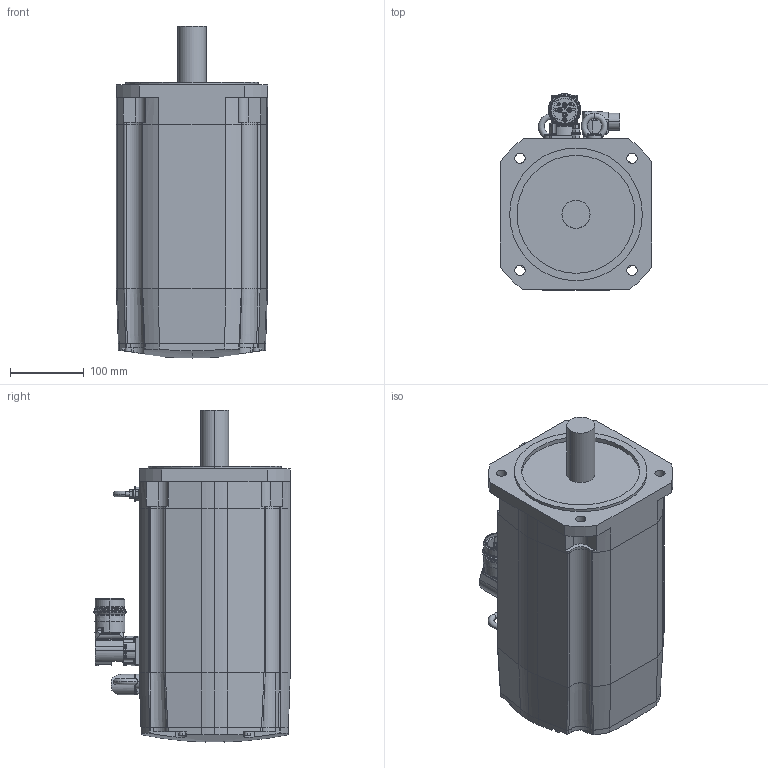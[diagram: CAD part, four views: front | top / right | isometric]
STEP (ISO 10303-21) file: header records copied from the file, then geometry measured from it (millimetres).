
FILE_DESCRIPTION (( 'STEP AP214' ), '1' );
FILE_NAME ('SH32051x0xF2100.STEP', '2013-11-29T13:11:23', ( 'Windows User' ), ( 'Schneider-Electric' ), 'SwSTEP 2.0', 'SolidWorks 2010', '' );
FILE_SCHEMA (( 'AUTOMOTIVE_DESIGN' ));
Length unit declared in the file: millimetre
Products named in the file (9): 1-100011024_K-FLANSCH SH205X_000_Flansch mit Welle ohne Passfedernut; 1-100011023_K-GEHÄUSE SH3-205X_000_Gehäuse stack 1 mit Bremse; 1-100011025_K-LAGERSCHILD SH205X_000; 1-100011027_K-DECKEL SH205_000; 1-100009587_K-ERDUNGSBOLZEN M6_VM1; Ringschraube DIN 580 M 8     0000019855011; K-ENCODER-CONINVERS-ABGEW_ENCODER-CONINVERS-ABGEWINKELT_000_Single- MultiTurn; 1-100010211_POWER M40 ABGEWINKELT VEREINFACHT_000_ohne Bremse; SH32051x0xF2100
Assembly tree (9 placements, depth 2):
  SH32051x0xF2100
    1-100011027_K-DECKEL SH205_000
    Ringschraube DIN 580 M 8     0000019855011  x2
    1-100011024_K-FLANSCH SH205X_000_Flansch mit Welle ohne Passfedernut
    K-ENCODER-CONINVERS-ABGEW_ENCODER-CONINVERS-ABGEWINKELT_000_Single- MultiTurn
    1-100011025_K-LAGERSCHILD SH205X_000
    1-100010211_POWER M40 ABGEWINKELT VEREINFACHT_000_ohne Bremse
    1-100009587_K-ERDUNGSBOLZEN M6_VM1
    1-100011023_K-GEHÄUSE SH3-205X_000_Gehäuse stack 1 mit Bremse
Bounding box: 205 x 266.5 x 450.33 mm (x, y, z)
Volume: 13142332.8 mm3; surface area: 607383.8 mm2
Topology: 9 solids, 9 shells, 776 faces, 1955 edges, 1253 vertices
Faces by surface type: cylinder 321, plane 304, bspline 74, cone 45, torus 28, sphere 4
Entity records: 30253 total; most frequent: CARTESIAN_POINT 8018, DIRECTION 3828, ORIENTED_EDGE 3746, EDGE_CURVE 1873, AXIS2_PLACEMENT_3D 1471, VERTEX_POINT 1214, LINE 886, VECTOR 886
